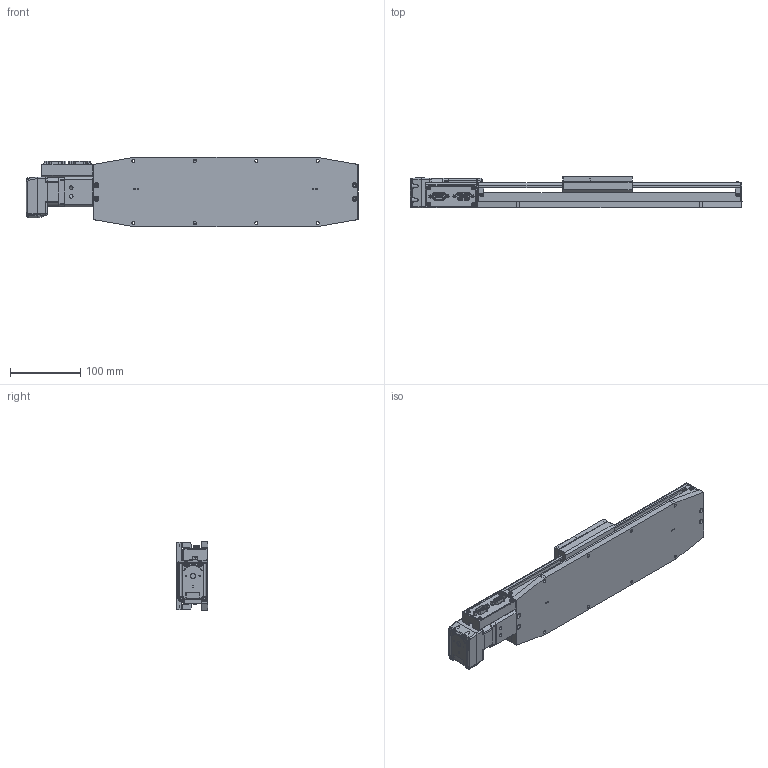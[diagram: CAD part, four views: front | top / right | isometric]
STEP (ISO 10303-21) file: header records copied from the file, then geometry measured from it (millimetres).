
FILE_DESCRIPTION (( 'STEP AP214' ), '1' );
FILE_NAME ('L3500.250-STA_v2_20180822.STEP', '2018-08-22T11:25:39', ( '' ), ( '' ), 'SwSTEP 2.0', 'SolidWorks 2017', '' );
FILE_SCHEMA (( 'AUTOMOTIVE_DESIGN' ));
Length unit declared in the file: millimetre
Products named in the file (1): L3500.250-STA_v2_20180822
Bounding box: 473.53 x 45.42 x 99.06 mm (x, y, z)
Surface area: 341038.2 mm2 (no closed solid volume)
Topology: 0 solids, 39 shells, 3070 faces, 8148 edges, 5265 vertices
Faces by surface type: plane 1380, cylinder 1118, bspline 292, cone 214, torus 66
Entity records: 129042 total; most frequent: CARTESIAN_POINT 54445, ORIENTED_EDGE 15959, DIRECTION 14392, EDGE_CURVE 7991, VERTEX_POINT 5265, AXIS2_PLACEMENT_3D 4997, VECTOR 4398, LINE 4398
